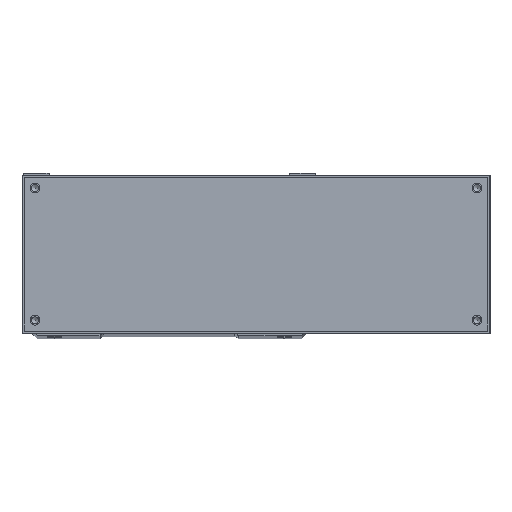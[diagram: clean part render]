
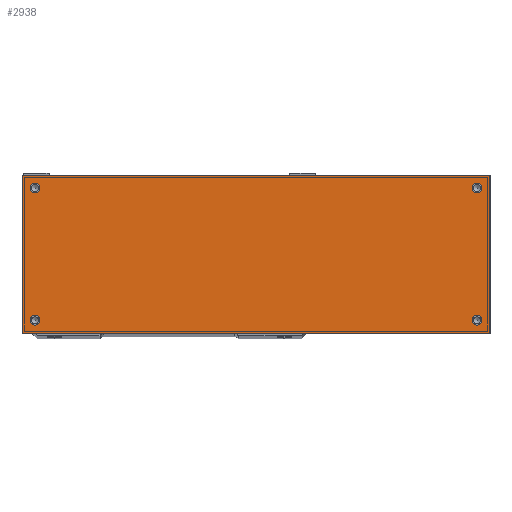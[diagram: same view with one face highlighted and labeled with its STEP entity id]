
A CAD part, top view. The second image highlights one B-rep face of the part: STEP entity #2938.
In plain terms, the highlighted planar face has unit normal (0, 0, 1).
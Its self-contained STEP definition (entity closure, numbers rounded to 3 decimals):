
#610=FACE_BOUND('',#5012,.T.);
#611=FACE_BOUND('',#5013,.T.);
#612=FACE_BOUND('',#5014,.T.);
#613=FACE_BOUND('',#5015,.T.);
#614=FACE_BOUND('',#5016,.T.);
#2148=CIRCLE('',#16542,2.25);
#2150=CIRCLE('',#16545,2.25);
#2152=CIRCLE('',#16548,2.25);
#2154=CIRCLE('',#16551,2.25);
#2938=ADVANCED_FACE('8',(#610,#611,#612,#613,#614),#3523,.F.);
#3523=PLANE('',#16553);
#5012=EDGE_LOOP('',(#8146));
#5013=EDGE_LOOP('',(#8147));
#5014=EDGE_LOOP('',(#8148));
#5015=EDGE_LOOP('',(#8149));
#5016=EDGE_LOOP('',(#8150,#8151,#8152,#8153));
#8146=ORIENTED_EDGE('',*,*,#12709,.F.);
#8147=ORIENTED_EDGE('',*,*,#12711,.F.);
#8148=ORIENTED_EDGE('',*,*,#12713,.F.);
#8149=ORIENTED_EDGE('',*,*,#12715,.F.);
#8150=ORIENTED_EDGE('',*,*,#12215,.F.);
#8151=ORIENTED_EDGE('',*,*,#12227,.F.);
#8152=ORIENTED_EDGE('',*,*,#11728,.F.);
#8153=ORIENTED_EDGE('',*,*,#11707,.F.);
#10082=VERTEX_POINT('',#23123);
#10083=VERTEX_POINT('',#23125);
#10100=VERTEX_POINT('',#23165);
#10463=VERTEX_POINT('',#24722);
#10776=VERTEX_POINT('',#27629);
#10778=VERTEX_POINT('',#27634);
#10780=VERTEX_POINT('',#27639);
#10782=VERTEX_POINT('',#27644);
#11707=EDGE_CURVE('',#10082,#10083,#13580,.T.);
#11728=EDGE_CURVE('',#10083,#10100,#13601,.T.);
#12215=EDGE_CURVE('',#10463,#10082,#13846,.T.);
#12227=EDGE_CURVE('',#10100,#10463,#13852,.T.);
#12709=EDGE_CURVE('',#10776,#10776,#2148,.T.);
#12711=EDGE_CURVE('',#10778,#10778,#2150,.T.);
#12713=EDGE_CURVE('',#10780,#10780,#2152,.T.);
#12715=EDGE_CURVE('',#10782,#10782,#2154,.T.);
#13580=LINE('',#23124,#14649);
#13601=LINE('',#23164,#14670);
#13846=LINE('',#24723,#14915);
#13852=LINE('',#24745,#14921);
#14649=VECTOR('',#18013,1.);
#14670=VECTOR('',#18038,1.);
#14915=VECTOR('',#18955,1.);
#14921=VECTOR('',#18977,1.);
#16542=AXIS2_PLACEMENT_3D('',#27628,#20136,#20137);
#16545=AXIS2_PLACEMENT_3D('',#27633,#20142,#20143);
#16548=AXIS2_PLACEMENT_3D('',#27638,#20148,#20149);
#16551=AXIS2_PLACEMENT_3D('',#27643,#20154,#20155);
#16553=AXIS2_PLACEMENT_3D('',#27646,#20158,#20159);
#18013=DIRECTION('',(-1.,0.,0.));
#18038=DIRECTION('',(0.,1.,0.));
#18955=DIRECTION('',(0.,-1.,0.));
#18977=DIRECTION('',(1.,0.,0.));
#20136=DIRECTION('',(0.,0.,1.));
#20137=DIRECTION('',(-1.,0.,0.));
#20142=DIRECTION('',(0.,0.,1.));
#20143=DIRECTION('',(1.,0.,0.));
#20148=DIRECTION('',(0.,0.,1.));
#20149=DIRECTION('',(-1.,0.,0.));
#20154=DIRECTION('',(0.,0.,1.));
#20155=DIRECTION('',(1.,0.,0.));
#20158=DIRECTION('',(0.,0.,-1.));
#20159=DIRECTION('',(1.,0.,0.));
#23123=CARTESIAN_POINT('',(148.,0.,193.));
#23124=CARTESIAN_POINT('',(148.,0.,193.));
#23125=CARTESIAN_POINT('',(-68.,0.,193.));
#23164=CARTESIAN_POINT('',(-68.,73.,193.));
#23165=CARTESIAN_POINT('',(-68.,73.,193.));
#24722=CARTESIAN_POINT('',(148.,73.,193.));
#24723=CARTESIAN_POINT('',(148.,73.,193.));
#24745=CARTESIAN_POINT('',(148.,73.,193.));
#27628=CARTESIAN_POINT('',(-62.,6.,193.));
#27629=CARTESIAN_POINT('',(-64.25,6.,193.));
#27633=CARTESIAN_POINT('',(142.,6.,193.));
#27634=CARTESIAN_POINT('',(144.25,6.,193.));
#27638=CARTESIAN_POINT('',(142.,67.,193.));
#27639=CARTESIAN_POINT('',(139.75,67.,193.));
#27643=CARTESIAN_POINT('',(-62.,67.,193.));
#27644=CARTESIAN_POINT('',(-59.75,67.,193.));
#27646=CARTESIAN_POINT('',(40.,36.5,193.));
